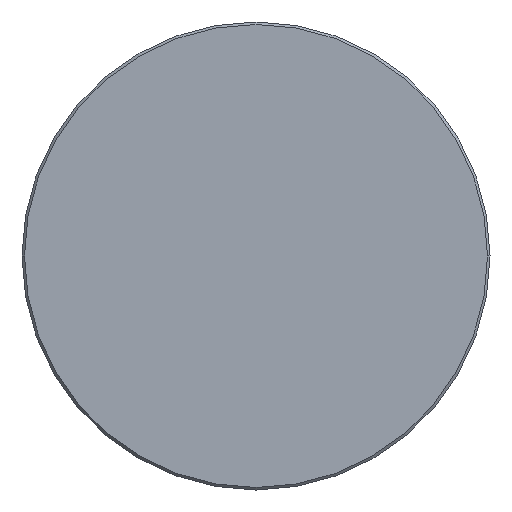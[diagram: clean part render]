
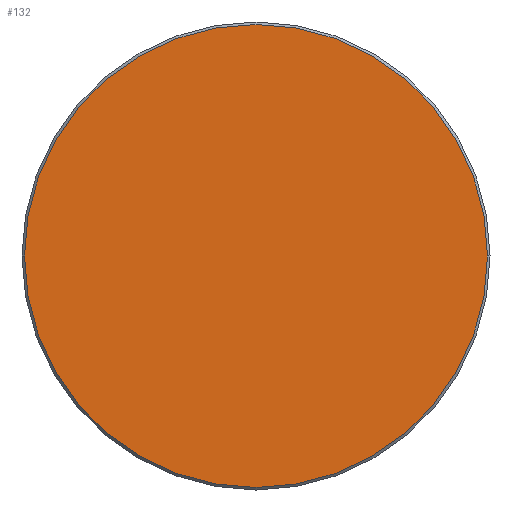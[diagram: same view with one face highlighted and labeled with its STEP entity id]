
A CAD part, left-side view. The second image highlights one B-rep face of the part: STEP entity #132.
In plain terms, the highlighted planar face has unit normal (-1, 0, 0).
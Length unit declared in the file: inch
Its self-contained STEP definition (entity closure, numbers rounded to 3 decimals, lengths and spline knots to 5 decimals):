
#7 = FACE_OUTER_BOUND ( 'NONE', #86, .T. ) ;
#19 = DIRECTION ( 'NONE',  ( -1., 0., 0. ) ) ;
#21 = CARTESIAN_POINT ( 'NONE',  ( 0., -0.371, 0. ) ) ;
#22 = CIRCLE ( 'NONE', #274, 0.371 ) ;
#24 = CARTESIAN_POINT ( 'NONE',  ( 0., 0., 0. ) ) ;
#32 = AXIS2_PLACEMENT_3D ( 'NONE', #370, #19, #79 ) ;
#40 = CARTESIAN_POINT ( 'NONE',  ( 0., 0., 0. ) ) ;
#79 = DIRECTION ( 'NONE',  ( 0., -1., 0. ) ) ;
#86 = EDGE_LOOP ( 'NONE', ( #227, #94 ) ) ;
#94 = ORIENTED_EDGE ( 'NONE', *, *, #159, .T. ) ;
#132 = ADVANCED_FACE ( 'NONE', ( #7 ), #339, .T. ) ;
#159 = EDGE_CURVE ( 'NONE', #221, #172, #22, .T. ) ;
#160 = DIRECTION ( 'NONE',  ( 0., -1., 0. ) ) ;
#172 = VERTEX_POINT ( 'NONE', #281 ) ;
#217 = DIRECTION ( 'NONE',  ( 0., -1., 0. ) ) ;
#221 = VERTEX_POINT ( 'NONE', #21 ) ;
#222 = DIRECTION ( 'NONE',  ( -1., 0., 0. ) ) ;
#227 = ORIENTED_EDGE ( 'NONE', *, *, #351, .T. ) ;
#260 = AXIS2_PLACEMENT_3D ( 'NONE', #24, #222, #160 ) ;
#274 = AXIS2_PLACEMENT_3D ( 'NONE', #40, #367, #217 ) ;
#281 = CARTESIAN_POINT ( 'NONE',  ( 0., 0.371, 0. ) ) ;
#339 = PLANE ( 'NONE',  #32 ) ;
#351 = EDGE_CURVE ( 'NONE', #172, #221, #352, .T. ) ;
#352 = CIRCLE ( 'NONE', #260, 0.371 ) ;
#367 = DIRECTION ( 'NONE',  ( -1., 0., 0. ) ) ;
#370 = CARTESIAN_POINT ( 'NONE',  ( 0., 0., 0. ) ) ;
